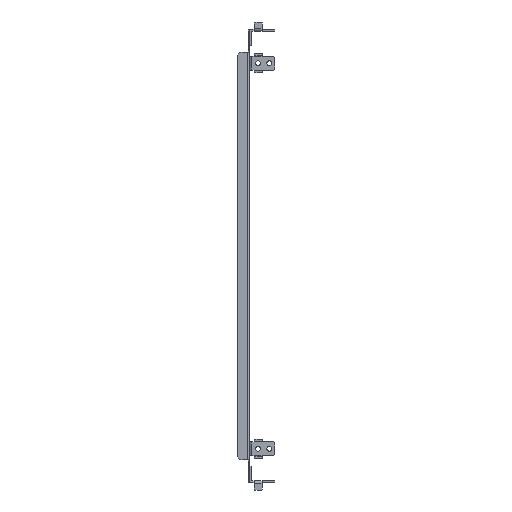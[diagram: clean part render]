
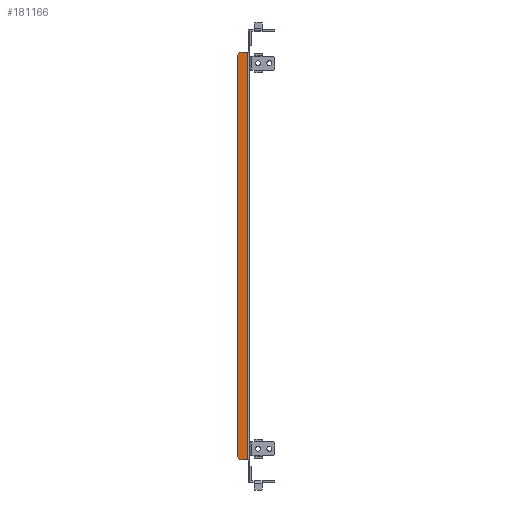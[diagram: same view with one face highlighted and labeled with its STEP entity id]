
A CAD part, left-side view. The second image highlights one B-rep face of the part: STEP entity #181166.
In plain terms, the highlighted planar face has unit normal (-1, 0, 0).
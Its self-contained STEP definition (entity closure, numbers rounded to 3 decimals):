
#179251=CARTESIAN_POINT(' ',(-195.5,9.,-224.5));
#179256=DIRECTION(' ',(0.,-1.,0.));
#179261=VECTOR(' ',#179256,1.);
#179266=LINE('',#179251,#179261);
#179271=CARTESIAN_POINT(' ',(-195.5,9.,-224.5));
#179272=VERTEX_POINT(' ',#179271);
#179276=CARTESIAN_POINT(' ',(-195.5,0.6,-224.5));
#179277=VERTEX_POINT(' ',#179276);
#179281=EDGE_CURVE(' ',#179272,#179277,#179266,.T.);
#179661=CARTESIAN_POINT(' ',(-195.5,9.,224.5));
#179662=VERTEX_POINT(' ',#179661);
#179676=CARTESIAN_POINT(' ',(-195.5,9.,224.5));
#179681=DIRECTION(' ',(0.,-1.,0.));
#179686=VECTOR(' ',#179681,1.);
#179691=LINE('',#179676,#179686);
#179696=CARTESIAN_POINT(' ',(-195.5,0.6,224.5));
#179697=VERTEX_POINT(' ',#179696);
#179701=EDGE_CURVE(' ',#179662,#179697,#179691,.T.);
#180956=CARTESIAN_POINT(' ',(-195.5,0.6,224.5));
#180961=DIRECTION(' ',(0.,0.,-1.));
#180966=VECTOR(' ',#180961,1.);
#180971=LINE('',#180956,#180966);
#180976=EDGE_CURVE(' ',#179697,#179277,#180971,.T.);
#181016=DIRECTION(' ',(-1.,-0.,0.));
#181021=CARTESIAN_POINT(' ',(-195.5,0.6,224.5));
#181026=DIRECTION(' ',(0.,1.,0.));
#181031=AXIS2_PLACEMENT_3D(' ',#181021,#181016,#181026);
#181036=PLANE('NONE',#181031);
#181041=CARTESIAN_POINT(' ',(-195.5,12.,221.5));
#181046=DIRECTION(' ',(0.,0.,-1.));
#181051=VECTOR(' ',#181046,1.);
#181056=LINE('',#181041,#181051);
#181061=CARTESIAN_POINT(' ',(-195.5,12.,221.5));
#181062=VERTEX_POINT(' ',#181061);
#181066=CARTESIAN_POINT(' ',(-195.5,12.,-221.5));
#181067=VERTEX_POINT(' ',#181066);
#181071=EDGE_CURVE(' ',#181062,#181067,#181056,.T.);
#181076=ORIENTED_EDGE(' ',*,*,#181071,.T.);
#181081=CARTESIAN_POINT(' ',(-195.5,12.,-221.5));
#181086=DIRECTION(' ',(0.,-0.707,-0.707));
#181091=VECTOR(' ',#181086,1.);
#181096=LINE('',#181081,#181091);
#181101=EDGE_CURVE(' ',#181067,#179272,#181096,.T.);
#181106=ORIENTED_EDGE(' ',*,*,#181101,.T.);
#181111=ORIENTED_EDGE(' ',*,*,#179281,.T.);
#181116=ORIENTED_EDGE(' ',*,*,#180976,.F.);
#181121=ORIENTED_EDGE(' ',*,*,#179701,.F.);
#181126=CARTESIAN_POINT(' ',(-195.5,9.,224.5));
#181131=DIRECTION(' ',(0.,0.707,-0.707));
#181136=VECTOR(' ',#181131,1.);
#181141=LINE('',#181126,#181136);
#181146=EDGE_CURVE(' ',#179662,#181062,#181141,.T.);
#181151=ORIENTED_EDGE(' ',*,*,#181146,.T.);
#181156=EDGE_LOOP(' ',(#181076,#181106,#181111,#181116,#181121,#181151));
#181161=FACE_OUTER_BOUND(' ',#181156,.T.);
#181166=ADVANCED_FACE('NONE',(#181161),#181036,.T.);
